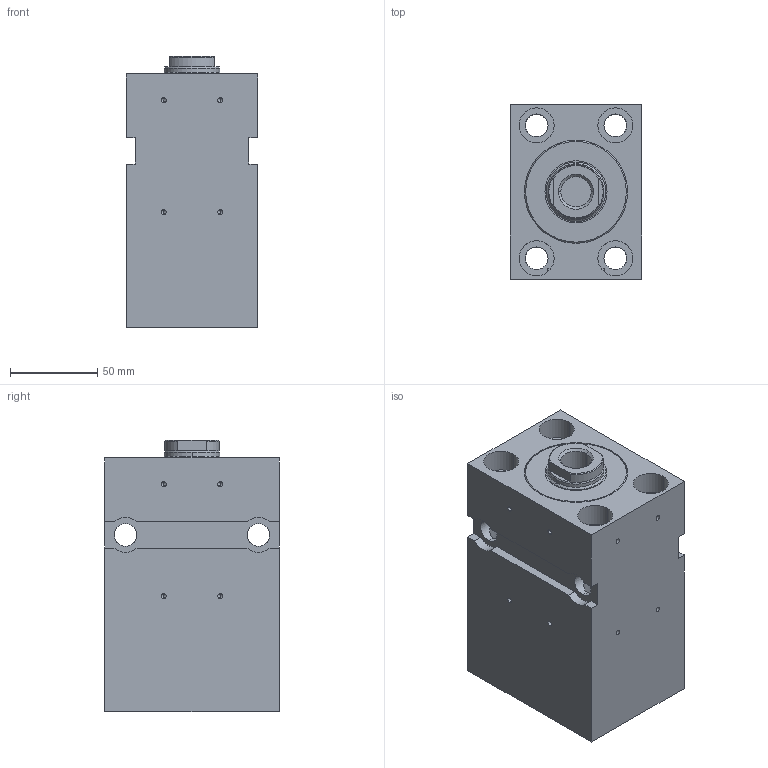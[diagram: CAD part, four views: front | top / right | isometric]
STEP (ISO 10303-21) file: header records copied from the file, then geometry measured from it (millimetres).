
FILE_DESCRIPTION (( 'STEP AP203' ), '1' );
FILE_NAME ('BZ_500.50_32.78.201.080 PP.KBC44__DH_0_.STEP', '2022-05-30T10:40:06', ( '' ), ( '' ), 'SwSTEP 2.0', 'SolidWorks 2020', '' );
FILE_SCHEMA (( 'CONFIG_CONTROL_DESIGN' ));
Length unit declared in the file: millimetre
Products named in the file (6): _Gehaeuse f. BZ500.50_32.Fehler in IDBF.201.80Fehler in IDNT00(1344frei278000))7^BZ_500.50_32.78.201.080 PP.KBC44__DH_0_(2)_BZ_500.50_32.78.201.080 PP.KBC44__DH_0_; BZ_500.50_32.78.201.080 PP.KBC44__DH_0_(2)^BZ_500.50_32.78.201.080 PP.KBC44__DH_0_; _Kolbenstange komplett f. BZ_RZ_FZ.50_32.xx.201.80(0_11 1 20 2.5 0 0 10 30 0 0 0)0^BZ_500.50_32.78.201.080 PP.KBC44__DH_0_(2)_BZ_500.50_32.78.201.080 PP.KBC44__DH_0_; BZ_500.50_32.78.201.080 PP.KBC44__DH_0_; _Verschraubung komplett mit Dichtung f. BZ_RZ_FZ.50_32.201, Art.-Nr._ 042986(201)^BZ_500.50_32.78.201.080 PP.KBC44__DH_0_(2)_BZ_500.50_32.78.201.080 PP.KBC44__DH_0_; _Dichtungssatz f. BZ_RZ_FZ.50_32.xx.201.80 Artikelnr._ 013676(0)^BZ_500.50_32.78.201.080 PP.KBC44__DH_0_(2)_BZ_500.50_32.78.201.080 PP.KBC44__DH_0_
Assembly tree (5 placements, depth 3):
  BZ_500.50_32.78.201.080 PP.KBC44__DH_0_
    BZ_500.50_32.78.201.080 PP.KBC44__DH_0_(2)^BZ_500.50_32.78.201.080 PP.KBC44__DH_0_
      _Gehaeuse f. BZ500.50_32.Fehler in IDBF.201.80Fehler in IDNT00(1344frei278000))7^BZ_500.50_32.78.201.080 PP.KBC44__DH_0_(2)_BZ_500.50_32.78.201.080 PP.KBC44__DH_0_
      _Verschraubung komplett mit Dichtung f. BZ_RZ_FZ.50_32.201, Art.-Nr._ 042986(201)^BZ_500.50_32.78.201.080 PP.KBC44__DH_0_(2)_BZ_500.50_32.78.201.080 PP.KBC44__DH_0_
      _Dichtungssatz f. BZ_RZ_FZ.50_32.xx.201.80 Artikelnr._ 013676(0)^BZ_500.50_32.78.201.080 PP.KBC44__DH_0_(2)_BZ_500.50_32.78.201.080 PP.KBC44__DH_0_
      _Kolbenstange komplett f. BZ_RZ_FZ.50_32.xx.201.80(0_11 1 20 2.5 0 0 10 30 0 0 0)0^BZ_500.50_32.78.201.080 PP.KBC44__DH_0_(2)_BZ_500.50_32.78.201.080 PP.KBC44__DH_0_
Bounding box: 75 x 100 x 155 mm (x, y, z)
Volume: 865454.6 mm3; surface area: 154799.6 mm2
Topology: 4 solids, 4 shells, 208 faces, 506 edges, 303 vertices
Faces by surface type: cylinder 118, plane 52, cone 38
Entity records: 6791 total; most frequent: CARTESIAN_POINT 1288, DIRECTION 1095, ORIENTED_EDGE 964, EDGE_CURVE 482, AXIS2_PLACEMENT_3D 436, VERTEX_POINT 303, EDGE_LOOP 257, LINE 223
